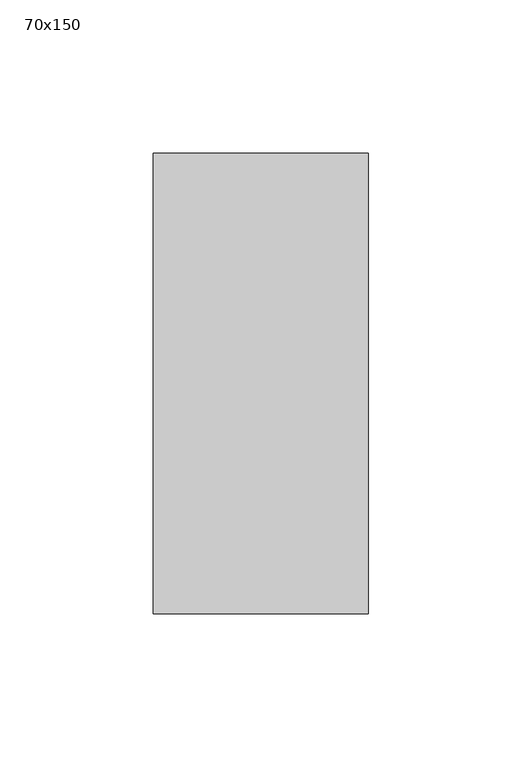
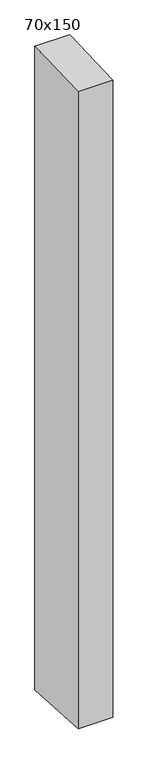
"""IFC4 building model written with IfcOpenShell, lengths in millimetres: member geometry, 長方形のマリオン : 70x150."""

from ifc_helpers import new_model, si_unit, frame, origin, place, context, project, spatial, polyline, outline, extrude, source, transform, mapped, element, save


def member_70x150_f63319ac(model_context):
    return source(origin(), model_context, "Body", "SweptSolid", [
        extrude(outline(polyline([(-75.0, -2.6562149), (75.0, 2.6562149), (75.0, -1362.1881869), (-75.0, -1354.1439666), (-75.0, -2.6562149)])), frame((-35.0, 0.0, 0.0), z_axis=(1.0, 0.0, 0.0), x_axis=(0.0, 1.0, 0.0)), (0.0, 0.0, 1.0), 70.0),
    ])


if __name__ == "__main__":
    model = new_model("IFC4")
    model_context = context("Model", 3, world=origin())
    ifc_project = project(units=[si_unit("LENGTHUNIT", "METRE", prefix="MILLI")], contexts=[model_context])
    site = spatial("IfcSite", under=ifc_project)
    building = spatial("IfcBuilding", under=site)
    placement = place(None, origin())
    member_70x150_shape = member_70x150_f63319ac(model_context)
    element("IfcMember", 1, ObjectType="長方形のマリオン : 70x150", at=placement, inside=building, context=model_context, shape_type="MappedRepresentation", body=[
        mapped(member_70x150_shape, transform((0.0, 0.0, 0.0), x_axis=(1.0, 0.0, 0.0), y_axis=(0.0, 1.0, 0.0), z_axis=(0.0, 0.0, 1.0))),
    ])
    save(model, "model.ifc")
